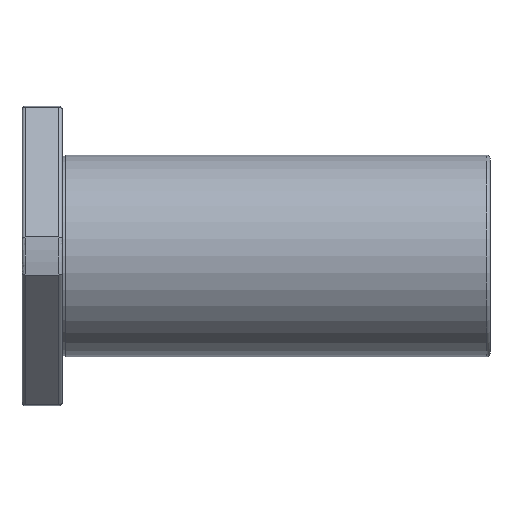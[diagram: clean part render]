
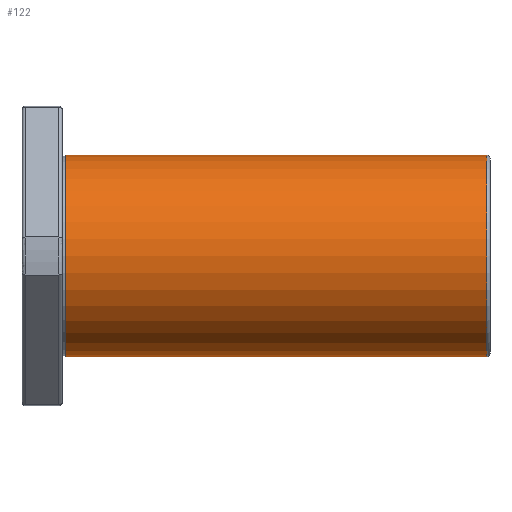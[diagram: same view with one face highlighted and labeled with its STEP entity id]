
A CAD part, front view. The second image highlights one B-rep face of the part: STEP entity #122.
In plain terms, the highlighted cylindrical face has radius 45 mm (diameter 90 mm), a full revolution.
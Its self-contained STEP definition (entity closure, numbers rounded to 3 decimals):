
#122 = ADVANCED_FACE( '', ( #272, #273 ), #274, .T. );
#272 = FACE_OUTER_BOUND( '', #455, .T. );
#273 = FACE_OUTER_BOUND( '', #456, .T. );
#274 = CYLINDRICAL_SURFACE( '', #457, 45. );
#455 = EDGE_LOOP( '', ( #723 ) );
#456 = EDGE_LOOP( '', ( #724 ) );
#457 = AXIS2_PLACEMENT_3D( '', #725, #726, #727 );
#723 = ORIENTED_EDGE( '', *, *, #996, .F. );
#724 = ORIENTED_EDGE( '', *, *, #963, .T. );
#725 = CARTESIAN_POINT( '', ( 63.9, 0., 0. ) );
#726 = DIRECTION( '', ( -1., 0., 0. ) );
#727 = DIRECTION( '', ( 0., 1., 0. ) );
#963 = EDGE_CURVE( '', #1129, #1129, #1130, .F. );
#996 = EDGE_CURVE( '', #1179, #1179, #1180, .F. );
#1129 = VERTEX_POINT( '', #1403 );
#1130 = CIRCLE( '', #1404, 45. );
#1179 = VERTEX_POINT( '', #1536 );
#1180 = CIRCLE( '', #1537, 45. );
#1403 = CARTESIAN_POINT( '', ( 207.5, 45., 0. ) );
#1404 = AXIS2_PLACEMENT_3D( '', #1711, #1712, #1713 );
#1536 = CARTESIAN_POINT( '', ( 19.5, 0., -45. ) );
#1537 = AXIS2_PLACEMENT_3D( '', #1750, #1751, #1752 );
#1711 = CARTESIAN_POINT( '', ( 207.5, 0., 0. ) );
#1712 = DIRECTION( '', ( 1., 0., 0. ) );
#1713 = DIRECTION( '', ( 0., 0., -1. ) );
#1750 = CARTESIAN_POINT( '', ( 19.5, 0., 0. ) );
#1751 = DIRECTION( '', ( 1., 0., 0. ) );
#1752 = DIRECTION( '', ( 0., 0., -1. ) );
